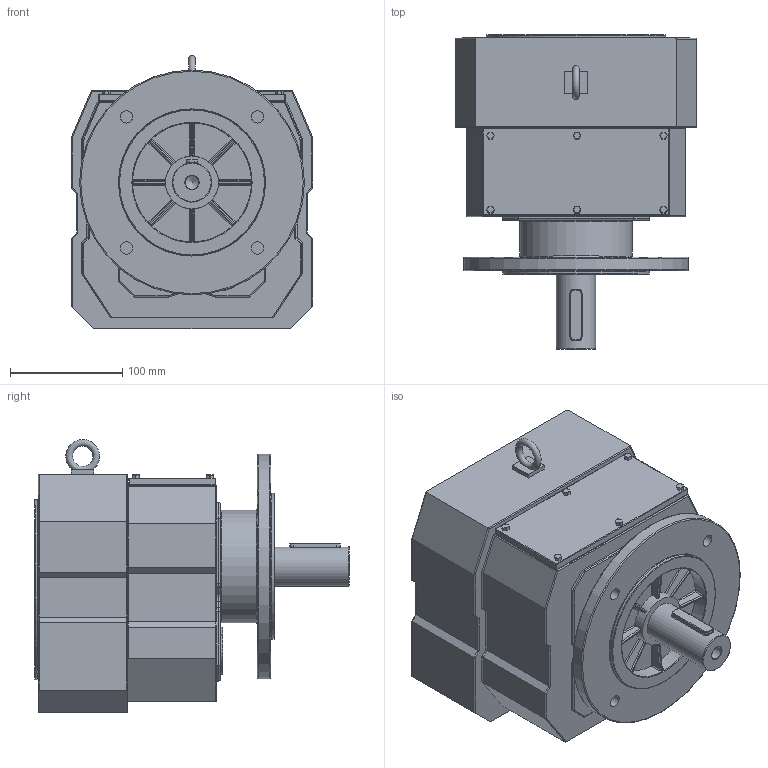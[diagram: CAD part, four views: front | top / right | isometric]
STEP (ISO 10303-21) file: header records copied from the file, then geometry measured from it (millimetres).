
FILE_DESCRIPTION((''),'2;1');
FILE_NAME('D:\PAWEŁ\ZLECENIA\2011 DualSystem\Przekładnie DR\DR60\STEP\DRF60_fi 200.stp','2012-06-11T12:08:31',('admin'),(''),'Autodesk Inventor 2009','Autodesk Inventor 2009','');
FILE_SCHEMA(('AUTOMOTIVE_DESIGN { 1 0 10303 214 1 1 1 1 }'));
Length unit declared in the file: millimetre
Products named in the file (1): DRF60_fi 200
Bounding box: 215 x 280 x 242.99 mm (x, y, z)
Volume: 7148842.5 mm3; surface area: 328532.7 mm2
Topology: 2 solids, 2 shells, 506 faces, 1212 edges, 686 vertices
Faces by surface type: cylinder 230, plane 169, sphere 44, bspline 43, torus 20
Full cylindrical faces by diameter (mm): 28 x1, 35 x1, 38 x1, 42 x1, 47 x1, 100 x1, 106 x1, 120 x1, 130 x1, 160 x1, 200 x1
Entity records: 16932 total; most frequent: CARTESIAN_POINT 5277, DIRECTION 2496, ORIENTED_EDGE 2274, EDGE_CURVE 1137, AXIS2_PLACEMENT_3D 938, VERTEX_POINT 678, VECTOR 620, LINE 620
